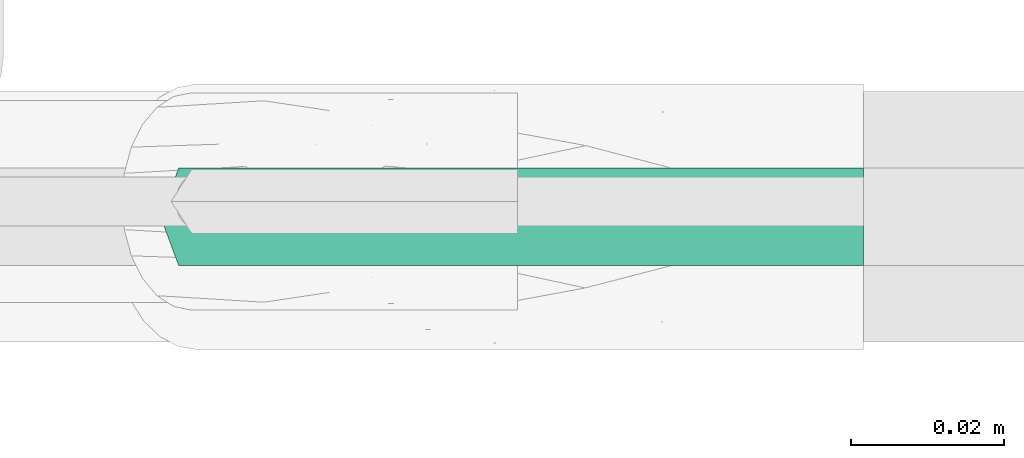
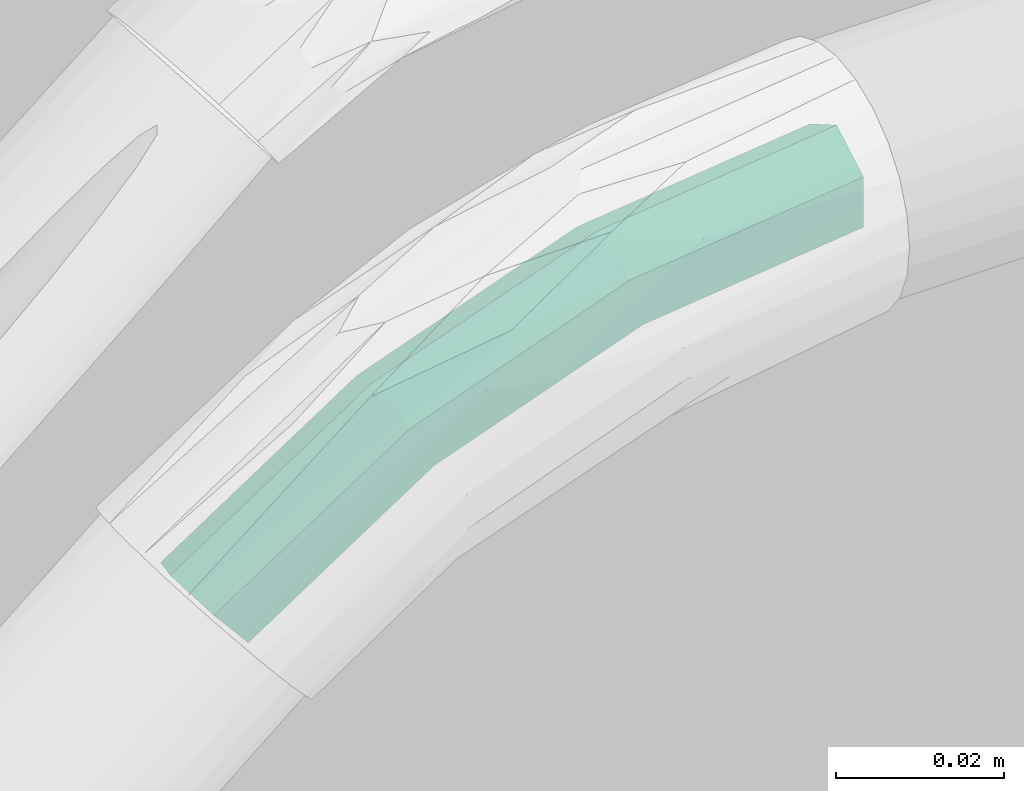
# One storey, part 27 of 32: 1 flow fitting.
"""IFC2X3 building model written with IfcOpenShell, lengths in metres."""

from ifc_helpers import new_model, entity, si_unit, converted_unit, derived_unit, direction, frame, origin, place, context, subcontext, project, spatial, faceted_brep, source, transform, mapped, material, type_object, type_shapes, element, save


model = new_model("IFC2X3")

# Units and contexts
model_context = context("Model", 3, precision=1e-05, world=origin(), true_north=direction((6.123031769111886e-17, 1.0)))
body_context = subcontext(model_context, "Body", "Model", "MODEL_VIEW")
ifc_project = project(units=[si_unit("LENGTHUNIT", "METRE"), si_unit("AREAUNIT", "SQUARE_METRE"), si_unit("VOLUMEUNIT", "CUBIC_METRE"), converted_unit("PLANEANGLEUNIT", "DEGREE", entity("IfcPlaneAngleMeasure", 0.017453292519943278), si_unit("PLANEANGLEUNIT", "RADIAN"), dimensions=[0, 0, 0, 0, 0, 0, 0]), si_unit("MASSUNIT", "GRAM", prefix="KILO"), derived_unit("MASSDENSITYUNIT", [(si_unit("MASSUNIT", "GRAM", prefix="KILO"), 1), (si_unit("LENGTHUNIT", "METRE"), -3)]), derived_unit("IONCONCENTRATIONUNIT", [(si_unit("MASSUNIT", "GRAM", prefix="KILO"), 1), (si_unit("LENGTHUNIT", "METRE"), -3)]), derived_unit("MOMENTOFINERTIAUNIT", [(si_unit("LENGTHUNIT", "METRE"), 4)]), si_unit("TIMEUNIT", "SECOND"), si_unit("FREQUENCYUNIT", "HERTZ"), si_unit("THERMODYNAMICTEMPERATUREUNIT", "DEGREE_CELSIUS"), derived_unit("THERMALTRANSMITTANCEUNIT", [(si_unit("MASSUNIT", "GRAM", prefix="KILO"), 1), (si_unit("THERMODYNAMICTEMPERATUREUNIT", "KELVIN"), -1), (si_unit("TIMEUNIT", "SECOND"), -3)]), derived_unit("THERMALCONDUCTANCEUNIT", [(si_unit("MASSUNIT", "GRAM", prefix="KILO"), 1), (si_unit("THERMODYNAMICTEMPERATUREUNIT", "KELVIN"), -1), (si_unit("TIMEUNIT", "SECOND"), -3), (si_unit("LENGTHUNIT", "METRE"), 1)]), derived_unit("VOLUMETRICFLOWRATEUNIT", [(si_unit("LENGTHUNIT", "METRE", prefix="DECI"), 3), (si_unit("TIMEUNIT", "SECOND"), -1)]), derived_unit("MASSFLOWRATEUNIT", [(si_unit("MASSUNIT", "GRAM", prefix="KILO"), 1), (si_unit("TIMEUNIT", "SECOND"), -1)]), derived_unit("ROTATIONALFREQUENCYUNIT", [(si_unit("TIMEUNIT", "SECOND"), -1)]), si_unit("ELECTRICCURRENTUNIT", "AMPERE"), si_unit("ELECTRICVOLTAGEUNIT", "VOLT"), si_unit("POWERUNIT", "WATT"), si_unit("FORCEUNIT", "NEWTON", prefix="KILO"), si_unit("ILLUMINANCEUNIT", "LUX"), si_unit("LUMINOUSFLUXUNIT", "LUMEN"), si_unit("LUMINOUSINTENSITYUNIT", "CANDELA"), si_unit("ENERGYUNIT", "JOULE"), derived_unit("USERDEFINED", [(si_unit("MASSUNIT", "GRAM", prefix="KILO"), -1), (si_unit("LENGTHUNIT", "METRE"), -2), (si_unit("TIMEUNIT", "SECOND"), 3), (si_unit("LUMINOUSFLUXUNIT", "LUMEN"), 1)]), derived_unit("USERDEFINED", [(si_unit("MASSUNIT", "GRAM", prefix="KILO"), 1), (si_unit("TIMEUNIT", "SECOND"), -3), (si_unit("LENGTHUNIT", "METRE"), 3), (si_unit("ELECTRICCURRENTUNIT", "AMPERE"), -2)]), derived_unit("SOUNDPOWERUNIT", [(si_unit("MASSUNIT", "GRAM", prefix="KILO"), 1), (si_unit("TIMEUNIT", "SECOND"), -3), (si_unit("LENGTHUNIT", "METRE"), 2)]), derived_unit("SOUNDPRESSUREUNIT", [(si_unit("MASSUNIT", "GRAM", prefix="KILO"), 1), (si_unit("LENGTHUNIT", "METRE"), -1), (si_unit("TIMEUNIT", "SECOND"), -2)]), derived_unit("LINEARVELOCITYUNIT", [(si_unit("LENGTHUNIT", "METRE"), 1), (si_unit("TIMEUNIT", "SECOND"), -1)]), si_unit("PRESSUREUNIT", "PASCAL"), derived_unit("USERDEFINED", [(si_unit("MASSUNIT", "GRAM", prefix="KILO"), 1), (si_unit("LENGTHUNIT", "METRE"), -2), (si_unit("TIMEUNIT", "SECOND"), -2)]), derived_unit("LINEARFORCEUNIT", [(si_unit("MASSUNIT", "GRAM", prefix="KILO"), 1), (si_unit("TIMEUNIT", "SECOND"), -2)]), derived_unit("PLANARFORCEUNIT", [(si_unit("MASSUNIT", "GRAM", prefix="KILO"), 1), (si_unit("LENGTHUNIT", "METRE"), -1), (si_unit("TIMEUNIT", "SECOND"), -2)]), derived_unit("SPECIFICHEATCAPACITYUNIT", [(si_unit("THERMODYNAMICTEMPERATUREUNIT", "KELVIN"), -1), (si_unit("LENGTHUNIT", "METRE"), 2), (si_unit("TIMEUNIT", "SECOND"), -2)]), derived_unit("HEATFLUXDENSITYUNIT", [(si_unit("MASSUNIT", "GRAM", prefix="KILO"), 1), (si_unit("TIMEUNIT", "SECOND"), -3)]), derived_unit("HEATINGVALUEUNIT", [(si_unit("LENGTHUNIT", "METRE"), 2), (si_unit("TIMEUNIT", "SECOND"), -2)]), derived_unit("VAPORPERMEABILITYUNIT", [(si_unit("LENGTHUNIT", "METRE"), -1), (si_unit("TIMEUNIT", "SECOND"), 1)]), derived_unit("DYNAMICVISCOSITYUNIT", [(si_unit("MASSUNIT", "GRAM", prefix="KILO"), 1), (si_unit("TIMEUNIT", "SECOND"), -1), (si_unit("LENGTHUNIT", "METRE"), -1)]), derived_unit("THERMALEXPANSIONCOEFFICIENTUNIT", [(si_unit("THERMODYNAMICTEMPERATUREUNIT", "KELVIN"), -1)]), derived_unit("MODULUSOFELASTICITYUNIT", [(si_unit("MASSUNIT", "GRAM", prefix="KILO"), 1), (si_unit("LENGTHUNIT", "METRE"), -1), (si_unit("TIMEUNIT", "SECOND"), -2)]), derived_unit("ISOTHERMALMOISTURECAPACITYUNIT", [(si_unit("MASSUNIT", "GRAM", prefix="KILO"), -1), (si_unit("LENGTHUNIT", "METRE"), 3)]), derived_unit("MOISTUREDIFFUSIVITYUNIT", [(si_unit("TIMEUNIT", "SECOND"), -1), (si_unit("LENGTHUNIT", "METRE"), 2)]), derived_unit("MASSPERLENGTHUNIT", [(si_unit("MASSUNIT", "GRAM", prefix="KILO"), 1), (si_unit("LENGTHUNIT", "METRE"), -1)]), derived_unit("THERMALRESISTANCEUNIT", [(si_unit("MASSUNIT", "GRAM", prefix="KILO"), -1), (si_unit("TIMEUNIT", "SECOND"), 3), (si_unit("THERMODYNAMICTEMPERATUREUNIT", "KELVIN"), 1)]), derived_unit("ACCELERATIONUNIT", [(si_unit("LENGTHUNIT", "METRE"), 1), (si_unit("TIMEUNIT", "SECOND"), -2)]), derived_unit("ANGULARVELOCITYUNIT", [(si_unit("TIMEUNIT", "SECOND"), -1), (si_unit("PLANEANGLEUNIT", "RADIAN"), 1)]), derived_unit("LINEARSTIFFNESSUNIT", [(si_unit("MASSUNIT", "GRAM", prefix="KILO"), 1), (si_unit("TIMEUNIT", "SECOND"), -2)]), derived_unit("WARPINGCONSTANTUNIT", [(si_unit("LENGTHUNIT", "METRE"), 6)]), derived_unit("LINEARMOMENTUNIT", [(si_unit("MASSUNIT", "GRAM", prefix="KILO"), 1), (si_unit("LENGTHUNIT", "METRE"), 1), (si_unit("TIMEUNIT", "SECOND"), -2)]), derived_unit("TORQUEUNIT", [(si_unit("MASSUNIT", "GRAM", prefix="KILO"), 1), (si_unit("LENGTHUNIT", "METRE"), 2), (si_unit("TIMEUNIT", "SECOND"), -2)])], contexts=[model_context])

# Site, building, storey
site_placement = place(None, origin())
site = spatial("IfcSite", under=ifc_project, at=site_placement, Name="Default", CompositionType="ELEMENT")
building_placement = place(site_placement, origin())
building = spatial("IfcBuilding", under=site, at=building_placement, CompositionType="ELEMENT")
storey_placement = place(building_placement, origin())
storey = spatial("IfcBuildingStorey", under=building, at=storey_placement, Name="Niveau 0", CompositionType="ELEMENT", Elevation=-1.949160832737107e-14)

# Flow fitting
ifc_material = material(Name="Cuivre")
pipe_fitting_type = type_object("IfcPipeFittingType", Name="Coude - tube frigo:Standard", PredefinedType="NOTDEFINED", material=ifc_material)
shared_shape = source(origin(), body_context, "Body", "Brep", [
    faceted_brep([(0.01478892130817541, 0.007839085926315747, 0.0), (0.013139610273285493, 0.011123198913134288, -0.006365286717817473), (0.04012857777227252, 0.028873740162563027, -0.006365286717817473), (0.04249078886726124, 0.02605849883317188, 0.0), (0.009840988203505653, 0.0176914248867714, -0.006365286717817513), (0.03540415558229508, 0.03450422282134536, -0.006365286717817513), (0.00819167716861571, 0.020975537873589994, 0.0), (0.033041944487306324, 0.03731946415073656, 0.0), (0.00984098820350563, 0.01769142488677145, 0.00636528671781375), (0.035404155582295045, 0.0345042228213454, 0.00636528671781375), (0.013139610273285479, 0.011123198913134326, 0.0063652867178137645), (0.0401285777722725, 0.028873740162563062, 0.0063652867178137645), (-0.016367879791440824, -0.0035008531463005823, 0.0), (-0.017215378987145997, 7.509010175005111e-05, -0.006365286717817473), (-0.01891037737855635, 0.007226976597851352, -0.006365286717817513), (-0.01975787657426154, 0.010802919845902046, 0.0), (-0.01891037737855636, 0.007226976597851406, 0.00636528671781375), (-0.017215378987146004, 7.509010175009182e-05, 0.0063652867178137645), (-0.049299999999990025, -0.00735000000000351, 0.0), (-0.04929999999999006, -0.003675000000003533, -0.006365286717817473), (-0.049299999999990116, 0.0036749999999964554, -0.006365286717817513), (-0.04929999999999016, 0.007349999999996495, 0.0), (-0.049299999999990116, 0.003674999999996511, 0.00636528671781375), (-0.04929999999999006, -0.0036750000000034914, 0.0063652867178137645)], [[[0, 1, 2, 3]], [[1, 4, 5, 2]], [[4, 6, 7, 5]], [[6, 8, 9, 7]], [[8, 10, 11, 9]], [[10, 0, 3, 11]], [[12, 13, 1, 0]], [[13, 14, 4, 1]], [[14, 15, 6, 4]], [[15, 16, 8, 6]], [[16, 17, 10, 8]], [[17, 12, 0, 10]], [[18, 19, 13, 12]], [[19, 20, 14, 13]], [[20, 21, 15, 14]], [[21, 22, 16, 15]], [[22, 23, 17, 16]], [[23, 18, 12, 17]], [[3, 2, 5, 7, 9, 11]], [[23, 22, 21, 20, 19, 18]]]),
])
type_shapes(pipe_fitting_type, [shared_shape])
flow_fitting_placement = place(storey_placement, frame((-15.158623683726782, 1.3750530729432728, 0.03567192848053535), z_axis=(0.0, -1.0, 0.0), x_axis=(-1.0, 0.0, -1.1853610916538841e-05)))
element("IfcFlowFitting", 1, at=flow_fitting_placement, inside=storey, type_object=pipe_fitting_type, material=ifc_material, Name="Coude - tube frigo:Standard", ObjectType="Coude - tube frigo:Standard", context=body_context, shape_type="MappedRepresentation", body=[
    mapped(shared_shape, transform((0.0, 0.0, 0.0), scale=1.0)),
])

save(model, "model.ifc")
